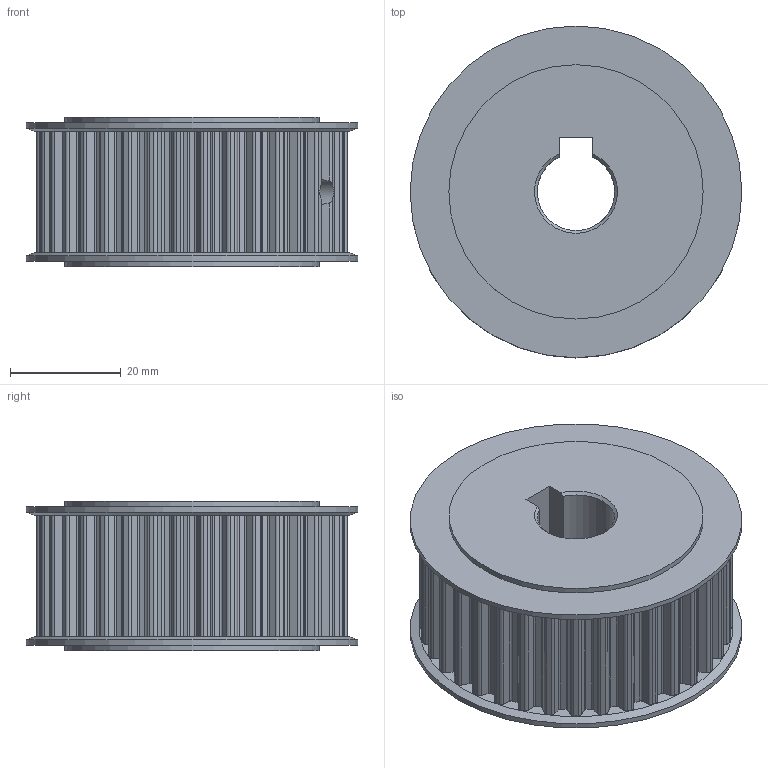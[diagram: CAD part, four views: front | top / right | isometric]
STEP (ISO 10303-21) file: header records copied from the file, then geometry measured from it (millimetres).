
FILE_DESCRIPTION(('STEP AP214'), '1');
FILE_NAME('BLA 36 T5-20 A N14 - 崹魤', '', ('UNSPECIFIED'), ('UNSPECIFIED'), 'ASCON STEP Converter 1.3', 'ASCON Math Kernel', '');
FILE_SCHEMA(('AUTOMOTIVE_DESIGN { 1 0 10303 214 3 1 1}'));
Length unit declared in the file: millimetre
Products named in the file (1): BLA-36-T5-20-A-N14
Bounding box: 60 x 60 x 27 mm (x, y, z)
Volume: 57637.9 mm3; surface area: 14400.9 mm2
Topology: 1 solids, 1 shells, 322 faces, 952 edges, 634 vertices
Faces by surface type: cylinder 195, plane 123, cone 4
Full cylindrical faces by diameter (mm): 4.917 x2, 46 x2, 60 x2
Entity records: 13921 total; most frequent: CARTESIAN_POINT 2414, DIRECTION 1934, ORIENTED_EDGE 1888, EDGE_CURVE 944, AXIS2_PLACEMENT_3D 702, VERTEX_POINT 634, LINE 530, VECTOR 530
